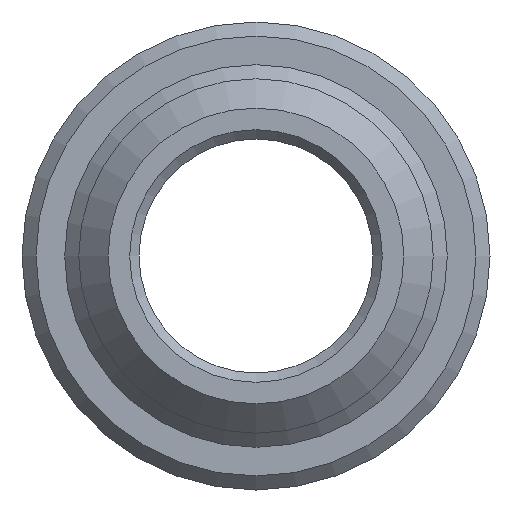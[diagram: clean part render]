
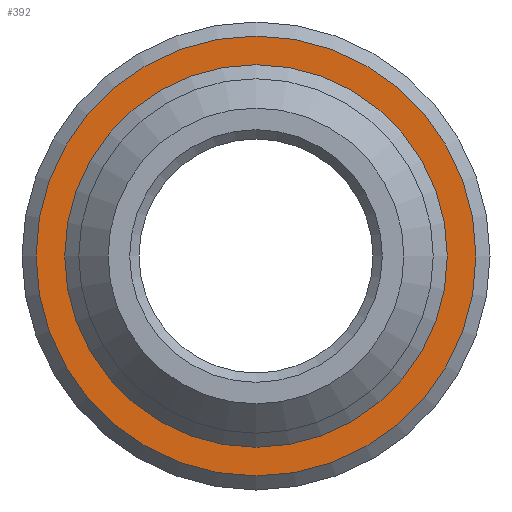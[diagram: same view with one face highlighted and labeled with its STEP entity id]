
A CAD part, front view. The second image highlights one B-rep face of the part: STEP entity #392.
In plain terms, the highlighted planar face has unit normal (0, -1, 0).
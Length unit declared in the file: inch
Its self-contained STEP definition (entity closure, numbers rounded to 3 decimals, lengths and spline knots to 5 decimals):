
#33=FACE_BOUND('',#86,.T.);
#44=PLANE('',#443);
#60=FACE_OUTER_BOUND('',#85,.T.);
#85=EDGE_LOOP('',(#316));
#86=EDGE_LOOP('',(#317));
#158=CIRCLE('',#442,0.20439);
#159=CIRCLE('',#444,0.235);
#195=VERTEX_POINT('',#678);
#196=VERTEX_POINT('',#682);
#243=EDGE_CURVE('',#195,#195,#158,.T.);
#244=EDGE_CURVE('',#196,#196,#159,.T.);
#316=ORIENTED_EDGE('',*,*,#244,.F.);
#317=ORIENTED_EDGE('',*,*,#243,.F.);
#392=ADVANCED_FACE('',(#60,#33),#44,.T.);
#442=AXIS2_PLACEMENT_3D('',#680,#536,#537);
#443=AXIS2_PLACEMENT_3D('',#681,#538,#539);
#444=AXIS2_PLACEMENT_3D('',#683,#540,#541);
#536=DIRECTION('center_axis',(0.,-1.,0.));
#537=DIRECTION('ref_axis',(0.,0.,-1.));
#538=DIRECTION('center_axis',(0.,-1.,0.));
#539=DIRECTION('ref_axis',(0.,0.,-1.));
#540=DIRECTION('center_axis',(0.,1.,0.));
#541=DIRECTION('ref_axis',(0.,0.,1.));
#678=CARTESIAN_POINT('',(0.,1.75,0.20439));
#680=CARTESIAN_POINT('Origin',(0.,1.75,0.));
#681=CARTESIAN_POINT('Origin',(0.,1.75,-0.203));
#682=CARTESIAN_POINT('',(0.,1.75,-0.235));
#683=CARTESIAN_POINT('Origin',(0.,1.75,0.));
